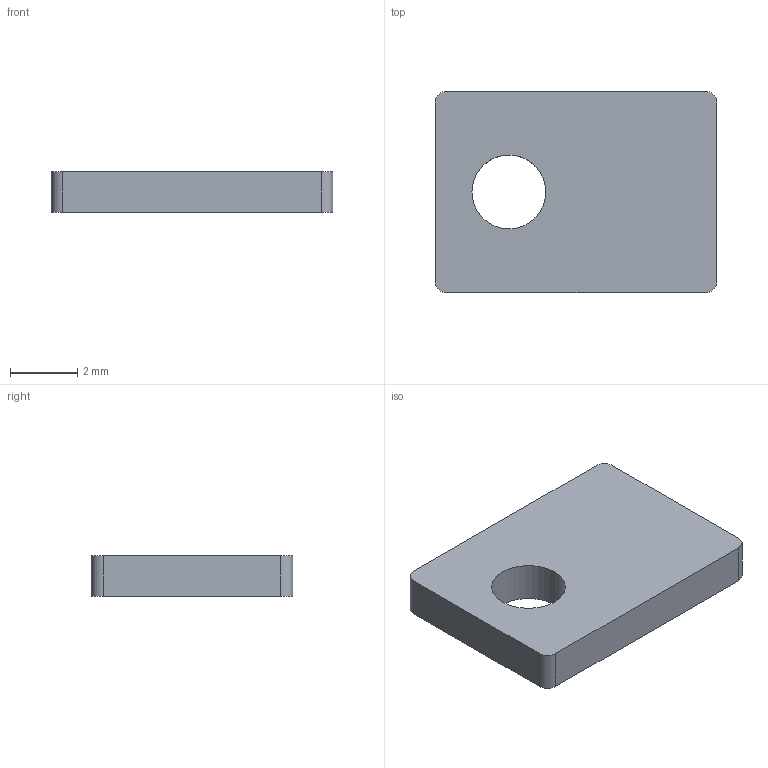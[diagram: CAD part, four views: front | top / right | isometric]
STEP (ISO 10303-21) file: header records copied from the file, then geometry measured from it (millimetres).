
FILE_DESCRIPTION(('Open CASCADE Model'),'2;1');
FILE_NAME('Open CASCADE Shape Model','2026-09-09T11:50:30',('Author'),( 'Open CASCADE'),'Open CASCADE STEP processor 7.7','Open CASCADE 7.7' ,'Unknown');
FILE_SCHEMA(('AUTOMOTIVE_DESIGN { 1 0 10303 214 1 1 1 1 }'));
Length unit declared in the file: millimetre
Products named in the file (1): Open CASCADE STEP translator 7.7 30
Bounding box: 8.4 x 6 x 1.2 mm (x, y, z)
Volume: 55.8 mm3; surface area: 135.1 mm2
Topology: 1 solids, 1 shells, 11 faces, 27 edges, 18 vertices
Faces by surface type: plane 6, cylinder 5
Full cylindrical faces by diameter (mm): 2.2 x1
Entity records: 708 total; most frequent: CARTESIAN_POINT 135, DIRECTION 111, LINE 61, VECTOR 61, ORIENTED_EDGE 54, PCURVE 54, DEFINITIONAL_REPRESENTATION 54, EDGE_CURVE 27
